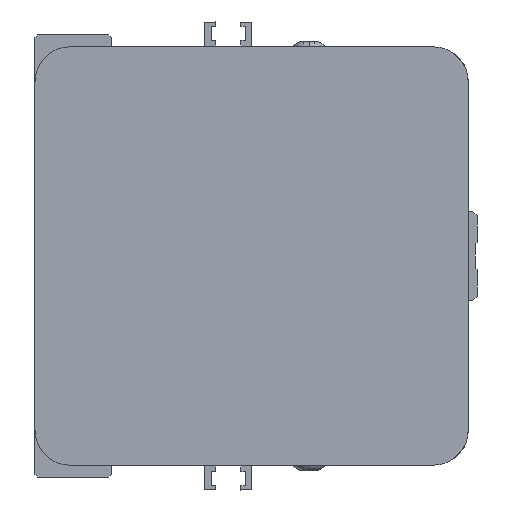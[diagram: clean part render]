
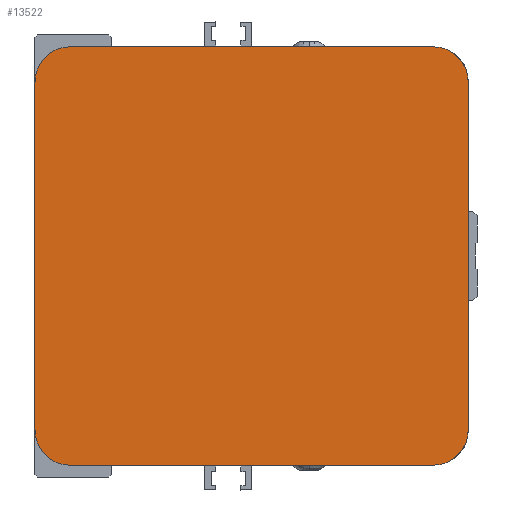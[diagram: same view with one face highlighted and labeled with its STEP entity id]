
A CAD part, left-side view. The second image highlights one B-rep face of the part: STEP entity #13522.
In plain terms, the highlighted planar face has unit normal (-1, 0, 0) as drawn and (0, 0, -1) by its records, which use the part's own axes.
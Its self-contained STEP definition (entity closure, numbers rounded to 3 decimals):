
#972=CIRCLE('',#14475,6.);
#973=CIRCLE('',#14480,6.);
#981=CIRCLE('',#14491,6.);
#982=CIRCLE('',#14493,6.);
#1640=FACE_OUTER_BOUND('',#2459,.T.);
#2459=EDGE_LOOP('',(#9422,#9423,#9424,#9425,#9426,#9427,#9428,#9429));
#3541=LINE('',#18936,#4797);
#3546=LINE('',#18947,#4802);
#3553=LINE('',#18962,#4809);
#3557=LINE('',#19047,#4813);
#4797=VECTOR('',#15669,61.5);
#4802=VECTOR('',#15680,59.);
#4809=VECTOR('',#15697,61.5);
#4813=VECTOR('',#15723,59.);
#6048=VERTEX_POINT('',#18932);
#6050=VERTEX_POINT('',#18935);
#6051=VERTEX_POINT('',#18940);
#6053=VERTEX_POINT('',#18946);
#6055=VERTEX_POINT('',#18957);
#6056=VERTEX_POINT('',#18961);
#6065=VERTEX_POINT('',#19042);
#6066=VERTEX_POINT('',#19046);
#7409=EDGE_CURVE('',#6050,#6048,#3541,.T.);
#7412=EDGE_CURVE('',#6050,#6051,#972,.T.);
#7415=EDGE_CURVE('',#6053,#6051,#3546,.T.);
#7421=EDGE_CURVE('',#6053,#6055,#973,.T.);
#7423=EDGE_CURVE('',#6056,#6055,#3553,.T.);
#7436=EDGE_CURVE('',#6065,#6048,#981,.T.);
#7437=EDGE_CURVE('',#6065,#6066,#3557,.T.);
#7438=EDGE_CURVE('',#6056,#6066,#982,.T.);
#9422=ORIENTED_EDGE('',*,*,#7421,.F.);
#9423=ORIENTED_EDGE('',*,*,#7415,.T.);
#9424=ORIENTED_EDGE('',*,*,#7412,.F.);
#9425=ORIENTED_EDGE('',*,*,#7409,.T.);
#9426=ORIENTED_EDGE('',*,*,#7436,.F.);
#9427=ORIENTED_EDGE('',*,*,#7437,.T.);
#9428=ORIENTED_EDGE('',*,*,#7438,.F.);
#9429=ORIENTED_EDGE('',*,*,#7423,.T.);
#13015=PLANE('',#14492);
#13522=ADVANCED_FACE('',(#1640),#13015,.F.);
#14475=AXIS2_PLACEMENT_3D('',#18941,#15674,#15675);
#14480=AXIS2_PLACEMENT_3D('',#18958,#15692,#15693);
#14491=AXIS2_PLACEMENT_3D('',#19044,#15719,#15720);
#14492=AXIS2_PLACEMENT_3D('',#19045,#15721,#15722);
#14493=AXIS2_PLACEMENT_3D('',#19048,#15724,#15725);
#15669=DIRECTION('',(0.,-1.,0.));
#15674=DIRECTION('center_axis',(0.,0.,
1.));
#15675=DIRECTION('ref_axis',(0.707,0.707,0.));
#15680=DIRECTION('',(1.,0.,0.));
#15692=DIRECTION('center_axis',(0.,0.,
1.));
#15693=DIRECTION('ref_axis',(-0.707,0.707,0.));
#15697=DIRECTION('',(0.,1.,0.));
#15719=DIRECTION('center_axis',(0.,0.,
1.));
#15720=DIRECTION('ref_axis',(0.707,-0.707,0.));
#15721=DIRECTION('center_axis',(0.,0.,
1.));
#15722=DIRECTION('ref_axis',(1.,0.,0.));
#15723=DIRECTION('',(-1.,0.,0.));
#15724=DIRECTION('center_axis',(0.,0.,
1.));
#15725=DIRECTION('ref_axis',(-0.707,-0.707,0.));
#18932=CARTESIAN_POINT('',(75.2,7.5,-407.));
#18935=CARTESIAN_POINT('',(75.2,69.,-407.));
#18936=CARTESIAN_POINT('',(75.2,69.,-407.));
#18940=CARTESIAN_POINT('',(69.2,75.,-407.));
#18941=CARTESIAN_POINT('Origin',(69.2,69.,-407.));
#18946=CARTESIAN_POINT('',(10.2,75.,-407.));
#18947=CARTESIAN_POINT('',(10.2,75.,-407.));
#18957=CARTESIAN_POINT('',(4.2,69.,-407.));
#18958=CARTESIAN_POINT('Origin',(10.2,69.,-407.));
#18961=CARTESIAN_POINT('',(4.2,7.5,-407.));
#18962=CARTESIAN_POINT('',(4.2,7.5,-407.));
#19042=CARTESIAN_POINT('',(69.2,1.5,-407.));
#19044=CARTESIAN_POINT('Origin',(69.2,7.5,-407.));
#19045=CARTESIAN_POINT('Origin',(39.7,38.25,-407.));
#19046=CARTESIAN_POINT('',(10.2,1.5,-407.));
#19047=CARTESIAN_POINT('',(69.2,1.5,-407.));
#19048=CARTESIAN_POINT('Origin',(10.2,7.5,-407.));
